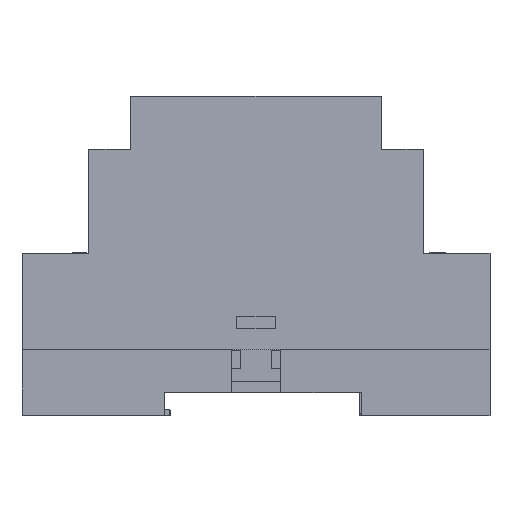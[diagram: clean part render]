
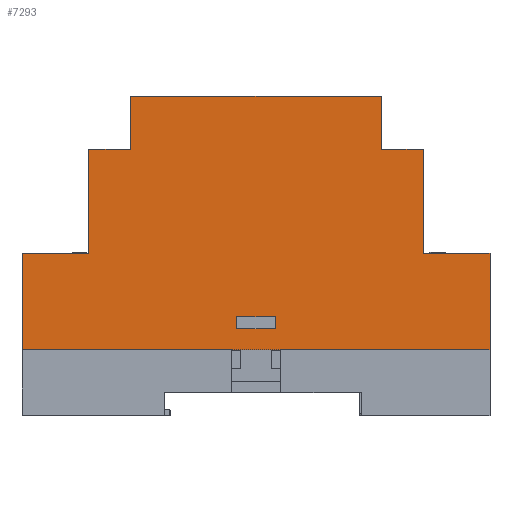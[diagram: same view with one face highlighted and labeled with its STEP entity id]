
A CAD part, top view. The second image highlights one B-rep face of the part: STEP entity #7293.
In plain terms, the highlighted planar face has unit normal (0, 0, 1).
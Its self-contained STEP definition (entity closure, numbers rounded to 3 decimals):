
#891 = DIRECTION ( 'NONE',  ( 0., 1., 0. ) ) ;
#1108 = CARTESIAN_POINT ( 'NONE',  ( 32., 18.48, 37.275 ) ) ;
#1230 = LINE ( 'NONE', #46889, #65265 ) ;
#1519 = VERTEX_POINT ( 'NONE', #94942 ) ;
#4202 = LINE ( 'NONE', #20681, #20310 ) ;
#4246 = LINE ( 'NONE', #34845, #10397 ) ;
#4522 = VERTEX_POINT ( 'NONE', #47036 ) ;
#6043 = VERTEX_POINT ( 'NONE', #16239 ) ;
#6227 = CARTESIAN_POINT ( 'NONE',  ( 44.75, 18.48, 37.275 ) ) ;
#7293 = ADVANCED_FACE ( 'NONE', ( #90933, #68624 ), #76857, .T. ) ;
#9387 = ORIENTED_EDGE ( 'NONE', *, *, #14704, .T. ) ;
#10260 = DIRECTION ( 'NONE',  ( 1., 0., 0. ) ) ;
#10397 = VECTOR ( 'NONE', #34371, 1000. ) ;
#10518 = DIRECTION ( 'NONE',  ( 0., -1., 0. ) ) ;
#10764 = DIRECTION ( 'NONE',  ( 1., 0., 0. ) ) ;
#11246 = EDGE_CURVE ( 'NONE', #1519, #17885, #55843, .T. ) ;
#12054 = ORIENTED_EDGE ( 'NONE', *, *, #41635, .F. ) ;
#13758 = VERTEX_POINT ( 'NONE', #75184 ) ;
#14021 = CARTESIAN_POINT ( 'NONE',  ( 32., 38.38, 37.275 ) ) ;
#14124 = DIRECTION ( 'NONE',  ( -1., 0., 0. ) ) ;
#14704 = EDGE_CURVE ( 'NONE', #17885, #94500, #4202, .T. ) ;
#16239 = CARTESIAN_POINT ( 'NONE',  ( 3.665, 4., 37.275 ) ) ;
#17885 = VERTEX_POINT ( 'NONE', #54687 ) ;
#18052 = CARTESIAN_POINT ( 'NONE',  ( 0., 0., 37.275 ) ) ;
#18218 = CARTESIAN_POINT ( 'NONE',  ( -24., 38.38, 37.275 ) ) ;
#20310 = VECTOR ( 'NONE', #42092, 1000. ) ;
#20621 = ORIENTED_EDGE ( 'NONE', *, *, #11246, .T. ) ;
#20633 = EDGE_LOOP ( 'NONE', ( #38932, #12054, #30898, #47440 ) ) ;
#20681 = CARTESIAN_POINT ( 'NONE',  ( -32., 18.48, 37.275 ) ) ;
#20779 = EDGE_CURVE ( 'NONE', #40369, #35397, #88768, .T. ) ;
#21065 = EDGE_CURVE ( 'NONE', #29362, #31696, #71252, .T. ) ;
#21413 = LINE ( 'NONE', #27773, #93449 ) ;
#21678 = EDGE_CURVE ( 'NONE', #6043, #64609, #55474, .T. ) ;
#22172 = VERTEX_POINT ( 'NONE', #65379 ) ;
#24427 = EDGE_CURVE ( 'NONE', #31696, #6043, #96178, .T. ) ;
#26038 = AXIS2_PLACEMENT_3D ( 'NONE', #18052, #47204, #10764 ) ;
#26312 = CARTESIAN_POINT ( 'NONE',  ( 3.665, 4., 37.275 ) ) ;
#27773 = CARTESIAN_POINT ( 'NONE',  ( 24., 48.5, 37.275 ) ) ;
#28035 = VERTEX_POINT ( 'NONE', #6227 ) ;
#28072 = ORIENTED_EDGE ( 'NONE', *, *, #45494, .T. ) ;
#28664 = VECTOR ( 'NONE', #51353, 1000. ) ;
#29362 = VERTEX_POINT ( 'NONE', #61248 ) ;
#29514 = CARTESIAN_POINT ( 'NONE',  ( 44.75, 0., 37.275 ) ) ;
#30016 = CARTESIAN_POINT ( 'NONE',  ( 24., 38.38, 37.275 ) ) ;
#30290 = DIRECTION ( 'NONE',  ( -1., 0., 0. ) ) ;
#30345 = VECTOR ( 'NONE', #62757, 1000. ) ;
#30898 = ORIENTED_EDGE ( 'NONE', *, *, #21678, .F. ) ;
#31053 = ORIENTED_EDGE ( 'NONE', *, *, #85213, .T. ) ;
#31192 = LINE ( 'NONE', #76847, #77097 ) ;
#31609 = LINE ( 'NONE', #38897, #45453 ) ;
#31696 = VERTEX_POINT ( 'NONE', #65733 ) ;
#32201 = LINE ( 'NONE', #1108, #37320 ) ;
#32532 = DIRECTION ( 'NONE',  ( 0., -1., 0. ) ) ;
#33205 = ORIENTED_EDGE ( 'NONE', *, *, #62174, .T. ) ;
#33325 = VECTOR ( 'NONE', #10518, 1000. ) ;
#34371 = DIRECTION ( 'NONE',  ( 0., 1., 0. ) ) ;
#34845 = CARTESIAN_POINT ( 'NONE',  ( 24., 48.5, 37.275 ) ) ;
#35397 = VERTEX_POINT ( 'NONE', #30016 ) ;
#36359 = DIRECTION ( 'NONE',  ( 0., 1., 0. ) ) ;
#37320 = VECTOR ( 'NONE', #30290, 1000. ) ;
#37737 = DIRECTION ( 'NONE',  ( -1., 0., 0. ) ) ;
#38897 = CARTESIAN_POINT ( 'NONE',  ( -24., 48.5, 37.275 ) ) ;
#38932 = ORIENTED_EDGE ( 'NONE', *, *, #21065, .F. ) ;
#39277 = VECTOR ( 'NONE', #891, 1000. ) ;
#40072 = ORIENTED_EDGE ( 'NONE', *, *, #20779, .T. ) ;
#40110 = VECTOR ( 'NONE', #32532, 1000. ) ;
#40369 = VERTEX_POINT ( 'NONE', #60457 ) ;
#40898 = CARTESIAN_POINT ( 'NONE',  ( -44.75, 18.48, 37.275 ) ) ;
#41635 = EDGE_CURVE ( 'NONE', #64609, #29362, #74678, .T. ) ;
#42092 = DIRECTION ( 'NONE',  ( -1., 0., 0. ) ) ;
#45453 = VECTOR ( 'NONE', #76320, 1000. ) ;
#45494 = EDGE_CURVE ( 'NONE', #22172, #76677, #31609, .T. ) ;
#46492 = CARTESIAN_POINT ( 'NONE',  ( -44.75, 18.48, 37.275 ) ) ;
#46889 = CARTESIAN_POINT ( 'NONE',  ( -24., 38.38, 37.275 ) ) ;
#47036 = CARTESIAN_POINT ( 'NONE',  ( 24., 48.5, 37.275 ) ) ;
#47204 = DIRECTION ( 'NONE',  ( 0., 0., 1. ) ) ;
#47440 = ORIENTED_EDGE ( 'NONE', *, *, #24427, .F. ) ;
#47575 = CARTESIAN_POINT ( 'NONE',  ( -32., 38.38, 37.275 ) ) ;
#51353 = DIRECTION ( 'NONE',  ( -1., 0., 0. ) ) ;
#51472 = CARTESIAN_POINT ( 'NONE',  ( -3.665, 4., 37.275 ) ) ;
#53246 = ORIENTED_EDGE ( 'NONE', *, *, #76820, .T. ) ;
#54687 = CARTESIAN_POINT ( 'NONE',  ( -32., 18.48, 37.275 ) ) ;
#55336 = EDGE_CURVE ( 'NONE', #35397, #4522, #4246, .T. ) ;
#55474 = LINE ( 'NONE', #26312, #30345 ) ;
#55843 = LINE ( 'NONE', #47575, #40110 ) ;
#57632 = CARTESIAN_POINT ( 'NONE',  ( 32., 18.48, 37.275 ) ) ;
#58831 = VECTOR ( 'NONE', #81127, 1000. ) ;
#59598 = VECTOR ( 'NONE', #37737, 1000. ) ;
#60198 = CARTESIAN_POINT ( 'NONE',  ( 44.75, 18.48, 37.275 ) ) ;
#60457 = CARTESIAN_POINT ( 'NONE',  ( 32., 38.38, 37.275 ) ) ;
#61248 = CARTESIAN_POINT ( 'NONE',  ( -3.665, 6.3, 37.275 ) ) ;
#62174 = EDGE_CURVE ( 'NONE', #4522, #22172, #21413, .T. ) ;
#62304 = DIRECTION ( 'NONE',  ( 0., -1., 0. ) ) ;
#62757 = DIRECTION ( 'NONE',  ( 0., 1., 0. ) ) ;
#63509 = EDGE_CURVE ( 'NONE', #68323, #28035, #88836, .T. ) ;
#63943 = CARTESIAN_POINT ( 'NONE',  ( -3.665, 4., 37.275 ) ) ;
#64609 = VERTEX_POINT ( 'NONE', #91594 ) ;
#64887 = EDGE_LOOP ( 'NONE', ( #67757, #53246, #94720, #40072, #76372, #33205, #28072, #80786, #20621, #9387, #31053, #66110 ) ) ;
#65265 = VECTOR ( 'NONE', #82395, 1000. ) ;
#65379 = CARTESIAN_POINT ( 'NONE',  ( -24., 48.5, 37.275 ) ) ;
#65733 = CARTESIAN_POINT ( 'NONE',  ( -3.665, 4., 37.275 ) ) ;
#66110 = ORIENTED_EDGE ( 'NONE', *, *, #68680, .T. ) ;
#67757 = ORIENTED_EDGE ( 'NONE', *, *, #63509, .T. ) ;
#68323 = VERTEX_POINT ( 'NONE', #29514 ) ;
#68624 = FACE_OUTER_BOUND ( 'NONE', #64887, .T. ) ;
#68680 = EDGE_CURVE ( 'NONE', #13758, #68323, #31192, .T. ) ;
#70566 = LINE ( 'NONE', #40898, #81965 ) ;
#71252 = LINE ( 'NONE', #63943, #33325 ) ;
#74678 = LINE ( 'NONE', #83402, #59598 ) ;
#75184 = CARTESIAN_POINT ( 'NONE',  ( -44.75, 0., 37.275 ) ) ;
#76320 = DIRECTION ( 'NONE',  ( 0., -1., 0. ) ) ;
#76372 = ORIENTED_EDGE ( 'NONE', *, *, #55336, .T. ) ;
#76577 = EDGE_CURVE ( 'NONE', #76677, #1519, #1230, .T. ) ;
#76677 = VERTEX_POINT ( 'NONE', #18218 ) ;
#76820 = EDGE_CURVE ( 'NONE', #28035, #84541, #32201, .T. ) ;
#76847 = CARTESIAN_POINT ( 'NONE',  ( -44.75, 0., 37.275 ) ) ;
#76857 = PLANE ( 'NONE',  #26038 ) ;
#77097 = VECTOR ( 'NONE', #10260, 1000. ) ;
#80786 = ORIENTED_EDGE ( 'NONE', *, *, #76577, .T. ) ;
#81127 = DIRECTION ( 'NONE',  ( 1., 0., 0. ) ) ;
#81496 = CARTESIAN_POINT ( 'NONE',  ( 24., 38.38, 37.275 ) ) ;
#81551 = LINE ( 'NONE', #14021, #83214 ) ;
#81965 = VECTOR ( 'NONE', #62304, 1000. ) ;
#82395 = DIRECTION ( 'NONE',  ( -1., 0., 0. ) ) ;
#83214 = VECTOR ( 'NONE', #36359, 1000. ) ;
#83222 = EDGE_CURVE ( 'NONE', #84541, #40369, #81551, .T. ) ;
#83402 = CARTESIAN_POINT ( 'NONE',  ( -3.665, 6.3, 37.275 ) ) ;
#84541 = VERTEX_POINT ( 'NONE', #57632 ) ;
#85213 = EDGE_CURVE ( 'NONE', #94500, #13758, #70566, .T. ) ;
#88768 = LINE ( 'NONE', #81496, #28664 ) ;
#88836 = LINE ( 'NONE', #60198, #39277 ) ;
#90933 = FACE_BOUND ( 'NONE', #20633, .T. ) ;
#91594 = CARTESIAN_POINT ( 'NONE',  ( 3.665, 6.3, 37.275 ) ) ;
#93449 = VECTOR ( 'NONE', #14124, 1000. ) ;
#94500 = VERTEX_POINT ( 'NONE', #46492 ) ;
#94720 = ORIENTED_EDGE ( 'NONE', *, *, #83222, .T. ) ;
#94942 = CARTESIAN_POINT ( 'NONE',  ( -32., 38.38, 37.275 ) ) ;
#96178 = LINE ( 'NONE', #51472, #58831 ) ;
